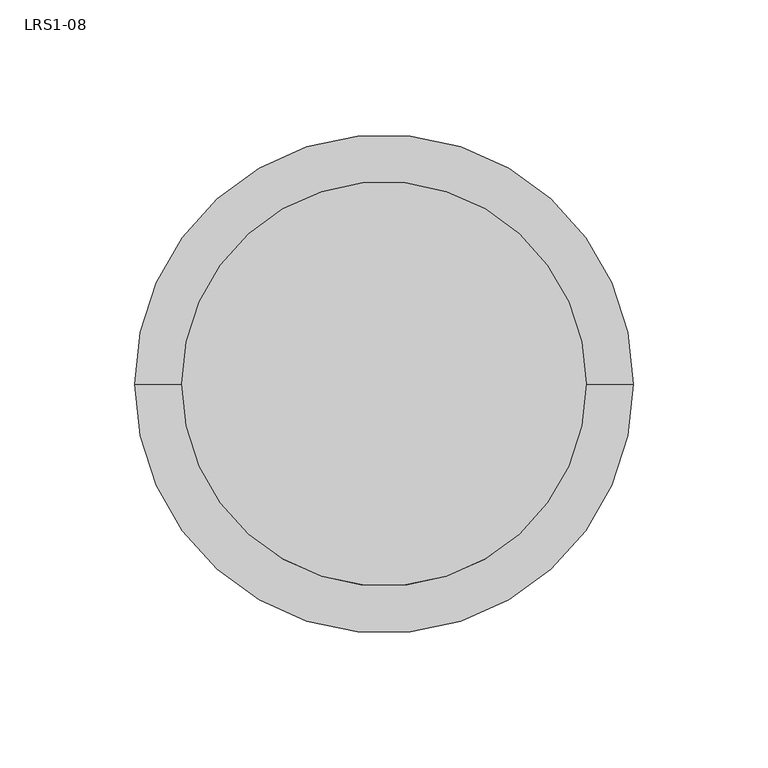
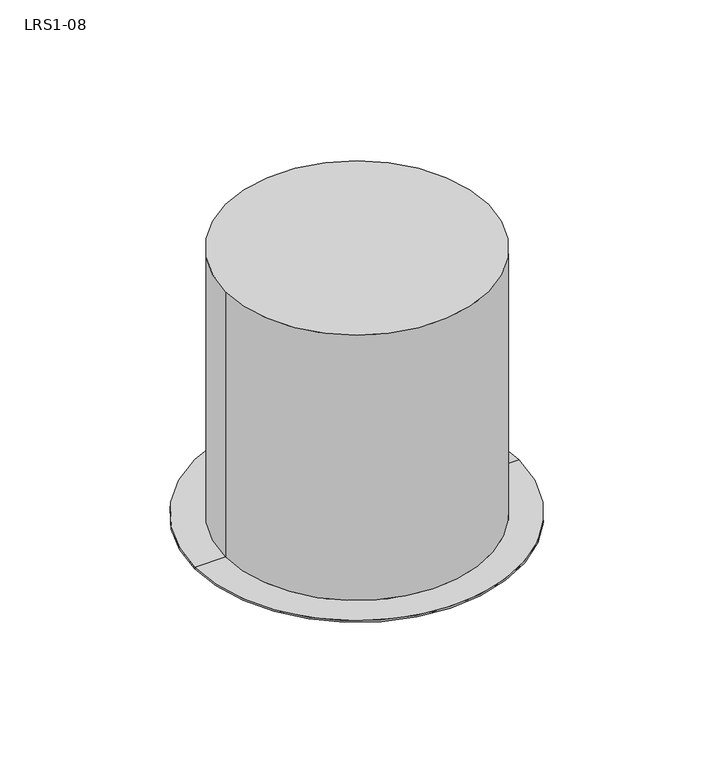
"""IFC4 building model written with IfcOpenShell, lengths in millimetres: light fixture geometry, 20403_RS1_ダウンライト形_埋込天井灯 : LRS1-08."""

import ifcopenshell
import ifcopenshell.guid

model = None  # the IFC model being written
_history = None  # IfcOwnerHistory: only IFC2X3 demands one
_inside = {}  # id of a spatial element -> (the spatial element, [elements in it])
_under = {}  # id of a project, library or spatial element -> (it, [spatial elements below it])
_declared = {}  # id of a project -> (the project, [libraries it declares])
_typed = {}  # id of a type object -> (the type object, [elements of that type])
_made_of = {}  # id of a material, layer set ... -> (it, [elements and type objects made of it])


def new_model(schema):
    """Start an empty IFC model of exactly this schema.

    Asked for "IFC4X3", IfcOpenShell would pick the latest addendum, in which some entities
    have other attributes; the version numbers below select the first issue.
    IFC2X3 requires an IfcOwnerHistory on every rooted entity: one is made here for all.
    """
    global model, _history
    if schema == "IFC4X3":
        model = ifcopenshell.file(schema_version=(4, 3, 0, 0))
    else:
        model = ifcopenshell.file(schema=schema)
    _inside.clear()
    _under.clear()
    _declared.clear()
    _typed.clear()
    _made_of.clear()
    _history = None
    if model.schema == "IFC2X3":
        org = make("IfcOrganization", Name="unknown")
        user = make(
            "IfcPersonAndOrganization",
            ThePerson=make("IfcPerson", FamilyName="unknown"),
            TheOrganization=org,
        )
        app = make(
            "IfcApplication",
            ApplicationDeveloper=org,
            Version="unknown",
            ApplicationFullName="unknown",
            ApplicationIdentifier="unknown",
        )
        _history = make(
            "IfcOwnerHistory",
            OwningUser=user,
            OwningApplication=app,
            ChangeAction="ADDED",
            CreationDate=0,
        )
    return model


def make(cls, **values):
    """One entity of the class cls with the attributes given. An attribute that is None is left unset."""
    return model.create_entity(
        cls, **{name: value for name, value in values.items() if value is not None}
    )


def rooted(cls, **values):
    """An entity with a GlobalId (a new one), such as an element, a storey or a relation."""
    return make(cls, GlobalId=ifcopenshell.guid.new(), OwnerHistory=_history, **values)


def si_unit(unit_type, name, prefix=None):
    """IfcSIUnit, for example si_unit("LENGTHUNIT", "METRE", prefix="MILLI")."""
    return make("IfcSIUnit", UnitType=unit_type, Prefix=prefix, Name=name)


def assignment(units):
    """IfcUnitAssignment: the units of a project."""
    return None if units is None else make("IfcUnitAssignment", Units=units)


def point(xyz):
    """IfcCartesianPoint."""
    return None if xyz is None else make("IfcCartesianPoint", Coordinates=xyz)


def direction(xyz):
    """IfcDirection."""
    return None if xyz is None else make("IfcDirection", DirectionRatios=xyz)


def frame(location, z_axis=None, x_axis=None):
    """IfcAxis2Placement3D, a coordinate frame: its origin and axes. An axis left out is left unset."""
    return make(
        "IfcAxis2Placement3D",
        Location=point(location),
        Axis=direction(z_axis),
        RefDirection=direction(x_axis),
    )


def origin():
    """The frame at (0, 0, 0) with its axes left unset."""
    return frame((0.0, 0.0, 0.0))


def origin_with_axes():
    """The frame at (0, 0, 0) with the z axis (0, 0, 1) and the x axis (1, 0, 0) written out."""
    return frame((0.0, 0.0, 0.0), z_axis=(0.0, 0.0, 1.0), x_axis=(1.0, 0.0, 0.0))


def place(relative_to, where):
    """IfcLocalPlacement: puts the frame where relative to a parent placement (None: the world)."""
    return make(
        "IfcLocalPlacement", PlacementRelTo=relative_to, RelativePlacement=where
    )


def context(
    kind, dimensions, precision=None, world=None, true_north=None, identifier=None
):
    """IfcGeometricRepresentationContext, for example the 3D "Model" context."""
    return make(
        "IfcGeometricRepresentationContext",
        ContextIdentifier=identifier,
        ContextType=kind,
        CoordinateSpaceDimension=dimensions,
        Precision=precision,
        WorldCoordinateSystem=world,
        TrueNorth=true_north,
    )


def project(units=None, contexts=None):
    """IfcProject with its units and contexts."""
    return rooted(
        "IfcProject",
        Name="project",
        RepresentationContexts=contexts,
        UnitsInContext=assignment(units),
    )


def spatial(cls, under=None, at=None, **own):
    """A site, building, storey or space (cls), placed at a placement, below another one or the project."""
    s = rooted(cls, ObjectPlacement=at, **own)
    if under is not None:
        _under.setdefault(under.id(), (under, []))[1].append(s)
    return s


def polyline(points):
    """IfcPolyline through the points."""
    return make("IfcPolyline", Points=[point(p) for p in points])


def circle_curve(where, radius):
    """IfcCircle in the frame where."""
    return make("IfcCircle", Position=where, Radius=radius)


def shape(context_of_items, identifier, shape_type, items):
    """IfcShapeRepresentation: the items that make up one representation, for example the "Body"."""
    return make(
        "IfcShapeRepresentation",
        ContextOfItems=context_of_items,
        RepresentationIdentifier=identifier,
        RepresentationType=shape_type,
        Items=items,
    )


def source(mapping_origin, context_of_items, identifier, shape_type, items):
    """IfcRepresentationMap: a shape defined once, which mapped items show again and again."""
    return make(
        "IfcRepresentationMap",
        MappingOrigin=mapping_origin,
        MappedRepresentation=shape(context_of_items, identifier, shape_type, items),
    )


def transform(
    local_origin,
    x_axis=None,
    y_axis=None,
    z_axis=None,
    scale=None,
    scale2=None,
    scale3=None,
    uniform=True,
):
    """IfcCartesianTransformationOperator3D, or its non-uniform kind. x_axis, y_axis, z_axis: its Axis1, 2, 3."""
    if uniform:
        return make(
            "IfcCartesianTransformationOperator3D",
            Axis1=direction(x_axis),
            Axis2=direction(y_axis),
            LocalOrigin=point(local_origin),
            Scale=scale,
            Axis3=direction(z_axis),
        )
    return make(
        "IfcCartesianTransformationOperator3DnonUniform",
        Axis1=direction(x_axis),
        Axis2=direction(y_axis),
        LocalOrigin=point(local_origin),
        Scale=scale,
        Axis3=direction(z_axis),
        Scale2=scale2,
        Scale3=scale3,
    )


def mapped(mapping_source, mapping_target):
    """IfcMappedItem: shows the shape of a source again, moved by a transform."""
    return make(
        "IfcMappedItem", MappingSource=mapping_source, MappingTarget=mapping_target
    )


def made_of(thing, what):
    """Note that an element or type object is made of a material, layer set ...; save() writes the relation."""
    if what is not None:
        _made_of.setdefault(what.id(), (what, []))[1].append(thing)
    return thing


def element(
    cls,
    number,
    at=None,
    inside=None,
    cuts=None,
    type_object=None,
    material=None,
    context=None,
    identifier="Body",
    shape_type=None,
    held_by="IfcProductDefinitionShape",
    body=None,
    shapes=None,
    **own,
):
    """One element of the class cls, such as IfcWall. Its Tag is "e" and its number.

    at: its placement. inside: the storey or other place that contains it. cuts: it is an
    opening in that element (IfcRelVoidsElement). A single representation is given by context,
    identifier, shape_type and body (its items); several are given by shapes. held_by: the class
    of the entity that holds the representations. save() writes the other relations.
    """
    e = rooted(cls, Tag="e%d" % number, ObjectPlacement=at, **own)
    if body is not None:
        shapes = [shape(context, identifier, shape_type, body)]
    if shapes is not None:
        e.Representation = make(held_by, Representations=shapes)
    if inside is not None:
        _inside.setdefault(inside.id(), (inside, []))[1].append(e)
    if cuts is not None:
        rooted(
            "IfcRelVoidsElement", RelatingBuildingElement=cuts, RelatedOpeningElement=e
        )
    if type_object is not None:
        _typed.setdefault(type_object.id(), (type_object, []))[1].append(e)
    return made_of(e, material)


def aggregate(whole, parts):
    """IfcRelAggregates: a whole, such as a stair, and the parts it consists of."""
    return rooted("IfcRelAggregates", RelatingObject=whole, RelatedObjects=parts)


def save(model, path):
    """Write the relations noted so far, then the file.

    IfcRelAggregates (storeys below a building ...), IfcRelContainedInSpatialStructure (elements
    in a storey), IfcRelDefinesByType, IfcRelAssociatesMaterial and IfcRelDeclares: one each for
    every whole, place, type object, material and project.
    """
    for whole, parts in _under.values():
        aggregate(whole, parts)
    for where, things in _inside.values():
        rooted(
            "IfcRelContainedInSpatialStructure",
            RelatedElements=things,
            RelatingStructure=where,
        )
    for kind, things in _typed.values():
        rooted("IfcRelDefinesByType", RelatedObjects=things, RelatingType=kind)
    for what, things in _made_of.values():
        rooted("IfcRelAssociatesMaterial", RelatedObjects=things, RelatingMaterial=what)
    for by, libraries in _declared.values():
        rooted("IfcRelDeclares", RelatingContext=by, RelatedDefinitions=libraries)
    model.write(path)


def plane_surface(at):
    """IfcPlane: the flat surface through the origin of the frame at, square to its z axis."""
    return make("IfcPlane", Position=at)


def cylinder_surface(at, radius):
    """IfcCylindricalSurface: all points at the distance radius from the z axis of the frame at."""
    return make("IfcCylindricalSurface", Position=at, Radius=radius)


def revolved_surface(curve, axis_point, axis_direction):
    """IfcSurfaceOfRevolution: the curve turned about the line through axis_point along axis_direction."""
    return make(
        "IfcSurfaceOfRevolution",
        SweptCurve=make("IfcArbitraryOpenProfileDef", ProfileType="CURVE", Curve=curve),
        AxisPosition=make("IfcAxis1Placement", Location=point(axis_point), Axis=direction(axis_direction)),
    )


def advanced_brep(points, edges, surfaces, faces):
    """IfcAdvancedBrep: a solid bounded by faces that lie on surfaces and meet in shared edges.

    An edge is (start, end): straight between two places in points (the first is 0);
    or (start, end, curve); or (start, end, curve, False) where it runs against its curve.
    A face is (place in surfaces, loops), or (place, loops, False) where it looks against
    its surface's normal. A loop lists edges by number (the first is 1), with a minus sign
    where the edge is run from its end to its start. The first loop is the outer one.
    """
    corners = [point(p) for p in points]
    vertices = [make("IfcVertexPoint", VertexGeometry=c) for c in corners]
    made = []
    for start, end, *more in edges:
        made.append(
            make(
                "IfcEdgeCurve",
                EdgeStart=vertices[start],
                EdgeEnd=vertices[end],
                EdgeGeometry=more[0] if more else make("IfcPolyline", Points=[corners[start], corners[end]]),
                SameSense=more[1] if len(more) > 1 else True,
            )
        )
    hull = []
    for where, loops, *sense in faces:
        bounds = []
        for j, loop in enumerate(loops):
            ring = [make("IfcOrientedEdge", EdgeElement=made[abs(k) - 1], Orientation=k > 0) for k in loop]
            bounds.append(
                make(
                    "IfcFaceOuterBound" if j == 0 else "IfcFaceBound",
                    Bound=make("IfcEdgeLoop", EdgeList=ring),
                    Orientation=True,
                )
            )
        hull.append(make("IfcAdvancedFace", Bounds=bounds, FaceSurface=surfaces[where], SameSense=sense[0] if sense else True))
    return make("IfcAdvancedBrep", Outer=make("IfcClosedShell", CfsFaces=hull))


def lrs1_08_33ef7f37(model_context):
    return source(origin(), model_context, "Body", "AdvancedBrep", [
        advanced_brep(
        [(75.0, 0.0, 160.0), (-75.0, 0.0, 160.0), (75.0, 0.0, 0.0), (-75.0, 0.0, 0.0), (74.0, 0.0, 0.0), (-74.0, 0.0, 0.0), (-74.0, 0.0, 50.0), (74.0, 0.0, 50.0), (0.0, 0.0, 50.0)],
        [
            (0, 1, circle_curve(frame((0.0, 0.0, 160.0), z_axis=(0.0, 0.0, 1.0), x_axis=(-1.0, 0.0, 0.0)), 75.0)),
            (1, 0, circle_curve(frame((0.0, 0.0, 160.0), z_axis=(0.0, 0.0, 1.0), x_axis=(-1.0, 0.0, 0.0)), 75.0)),
            (0, 2),
            (2, 3, circle_curve(frame((0.0, 0.0, 0.0), z_axis=(0.0, 0.0, 1.0), x_axis=(-1.0, 0.0, 0.0)), 75.0)),
            (3, 1),
            (3, 2, circle_curve(frame((0.0, 0.0, 0.0), z_axis=(0.0, 0.0, 1.0), x_axis=(-1.0, 0.0, 0.0)), 75.0)),
            (4, 5, circle_curve(origin_with_axes(), 74.0)),
            (5, 4, circle_curve(origin_with_axes(), 74.0)),
            (6, 5),
            (4, 7),
            (7, 6, circle_curve(frame((0.0, 0.0, 50.0), z_axis=(0.0, 0.0, 1.0), x_axis=(1.0, 0.0, 0.0)), 74.0)),
            (6, 7, circle_curve(frame((0.0, 0.0, 50.0), z_axis=(0.0, 0.0, 1.0), x_axis=(1.0, 0.0, 0.0)), 74.0)),
            (7, 8),
            (8, 6),
        ],
        [
            plane_surface(frame((-75.0, 0.0, 160.0), z_axis=(0.0, 0.0, 1.0), x_axis=(0.0, -1.0, 0.0))),
            cylinder_surface(frame((0.0, 0.0, 0.0), z_axis=(0.0, 0.0, 1.0), x_axis=(-1.0, 0.0, 0.0)), 75.0),
            plane_surface(frame((-75.0, 0.0, 0.0), z_axis=(0.0, 0.0, -1.0), x_axis=(0.0, 1.0, 0.0))),
            revolved_surface(polyline([(74.0, 0.0, 50.0), (74.0, 0.0, 0.0)]), (0.0, 0.0, 120.0), (0.0, 0.0, 1.0)),
            plane_surface(frame((0.0, 0.0, 50.0), z_axis=(0.0, 0.0, -1.0), x_axis=(1.0, 0.0, 0.0))),
        ],
        [
            (0, [[1, 2]]),
            (1, [[-1, 3, 4, 5]]),
            (1, [[-2, -5, 6, -3]]),
            (2, [[-6, -4], [7, 8]]),
            (3, [[9, -7, 10, 11]]),
            (3, [[-9, 12, -10, -8]]),
            (4, [[-11, 13, 14]]),
            (4, [[-12, -14, -13]]),
        ],
    ),
        advanced_brep(
        [(75.5, 0.0, -4.0), (-75.5, 0.0, -4.0), (-92.5, 0.0, -1.0), (92.5, 0.0, -1.0), (-92.5, 0.0, 0.0), (92.5, 0.0, 0.0), (-75.0, 0.0, 0.0), (75.0, 0.0, 0.0), (75.0, 0.0, -4.0), (-75.0, 0.0, -4.0)],
        [
            (0, 1, circle_curve(frame((0.0, 0.0, -4.0), z_axis=(0.0, 0.0, 1.0), x_axis=(1.0, 0.0, 0.0)), 75.5)),
            (1, 2),
            (2, 3, circle_curve(frame((0.0, 0.0, -1.0), z_axis=(0.0, 0.0, -1.0), x_axis=(1.0, 0.0, 0.0)), 92.5)),
            (3, 0),
            (1, 0, circle_curve(frame((0.0, 0.0, -4.0), z_axis=(0.0, 0.0, 1.0), x_axis=(1.0, 0.0, 0.0)), 75.5)),
            (3, 2, circle_curve(frame((0.0, 0.0, -1.0), z_axis=(0.0, 0.0, -1.0), x_axis=(1.0, 0.0, 0.0)), 92.5)),
            (2, 4),
            (4, 5, circle_curve(frame((0.0, 0.0, 0.0), z_axis=(0.0, 0.0, -1.0), x_axis=(1.0, 0.0, 0.0)), 92.5)),
            (5, 3),
            (5, 4, circle_curve(frame((0.0, 0.0, 0.0), z_axis=(0.0, 0.0, -1.0), x_axis=(1.0, 0.0, 0.0)), 92.5)),
            (4, 6),
            (6, 7, circle_curve(frame((0.0, 0.0, 0.0), z_axis=(0.0, 0.0, -1.0), x_axis=(1.0, 0.0, 0.0)), 75.0)),
            (7, 5),
            (7, 6, circle_curve(frame((0.0, 0.0, 0.0), z_axis=(0.0, 0.0, -1.0), x_axis=(1.0, 0.0, 0.0)), 75.0)),
            (7, 8),
            (8, 9, circle_curve(frame((0.0, 0.0, -4.0), z_axis=(0.0, 0.0, -1.0), x_axis=(1.0, 0.0, 0.0)), 75.0)),
            (9, 6),
            (9, 8, circle_curve(frame((0.0, 0.0, -4.0), z_axis=(0.0, 0.0, -1.0), x_axis=(1.0, 0.0, 0.0)), 75.0)),
            (0, 8),
            (9, 1),
        ],
        [
            revolved_surface(polyline([(75.5, 0.0, -4.0), (92.5, 0.0, -1.0)]), (0.0, 0.0, 65.0), (0.0, 0.0, 1.0)),
            cylinder_surface(frame((0.0, 0.0, 65.0), z_axis=(0.0, 0.0, 1.0), x_axis=(1.0, 0.0, 0.0)), 92.5),
            plane_surface(origin_with_axes()),
            revolved_surface(polyline([(75.0, 0.0, 0.0), (75.0, 0.0, -4.0)]), (0.0, 0.0, -5.0), (0.0, 0.0, 1.0)),
            plane_surface(frame((0.0, 0.0, -4.0), z_axis=(0.0, 0.0, -1.0), x_axis=(1.0, 0.0, 0.0))),
        ],
        [
            (0, [[1, 2, 3, 4]]),
            (0, [[5, -4, 6, -2]]),
            (1, [[-3, 7, 8, 9]]),
            (1, [[-6, -9, 10, -7]]),
            (2, [[-8, 11, 12, 13]]),
            (2, [[-10, -13, 14, -11]]),
            (3, [[15, 16, 17, -14]]),
            (3, [[-15, -12, -17, 18]]),
            (4, [[-1, 19, -18, 20]]),
            (4, [[-5, -20, -16, -19]]),
        ],
    ),
    ])


if __name__ == "__main__":
    model = new_model("IFC4")
    model_context = context("Model", 3, world=origin())
    ifc_project = project(units=[si_unit("LENGTHUNIT", "METRE", prefix="MILLI")], contexts=[model_context])
    site = spatial("IfcSite", under=ifc_project)
    building = spatial("IfcBuilding", under=site)
    placement = place(None, origin())
    lrs1_08_shape = lrs1_08_33ef7f37(model_context)
    element("IfcLightFixture", 1, ObjectType="20403_RS1_ダウンライト形_埋込天井灯 : LRS1-08", at=placement, inside=building, context=model_context, shape_type="MappedRepresentation", body=[
        mapped(lrs1_08_shape, transform((0.0, 0.0, 0.0), x_axis=(1.0, 0.0, 0.0), y_axis=(0.0, 1.0, 0.0), z_axis=(0.0, 0.0, 1.0))),
    ])
    save(model, "model.ifc")
